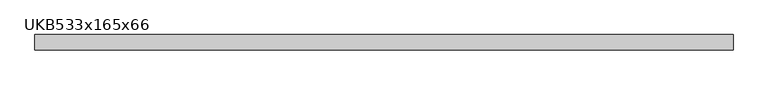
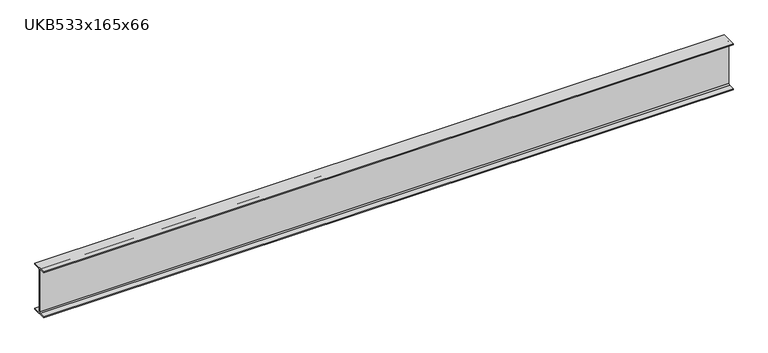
"""IFC4 building model written with IfcOpenShell, lengths in millimetres: beam geometry, UKB-UK Beams : UKB533x165x66."""

import ifcopenshell
import ifcopenshell.guid

model = None  # the IFC model being written
_history = None  # IfcOwnerHistory: only IFC2X3 demands one
_inside = {}  # id of a spatial element -> (the spatial element, [elements in it])
_under = {}  # id of a project, library or spatial element -> (it, [spatial elements below it])
_declared = {}  # id of a project -> (the project, [libraries it declares])
_typed = {}  # id of a type object -> (the type object, [elements of that type])
_made_of = {}  # id of a material, layer set ... -> (it, [elements and type objects made of it])


def new_model(schema):
    """Start an empty IFC model of exactly this schema.

    Asked for "IFC4X3", IfcOpenShell would pick the latest addendum, in which some entities
    have other attributes; the version numbers below select the first issue.
    IFC2X3 requires an IfcOwnerHistory on every rooted entity: one is made here for all.
    """
    global model, _history
    if schema == "IFC4X3":
        model = ifcopenshell.file(schema_version=(4, 3, 0, 0))
    else:
        model = ifcopenshell.file(schema=schema)
    _inside.clear()
    _under.clear()
    _declared.clear()
    _typed.clear()
    _made_of.clear()
    _history = None
    if model.schema == "IFC2X3":
        org = make("IfcOrganization", Name="unknown")
        user = make(
            "IfcPersonAndOrganization",
            ThePerson=make("IfcPerson", FamilyName="unknown"),
            TheOrganization=org,
        )
        app = make(
            "IfcApplication",
            ApplicationDeveloper=org,
            Version="unknown",
            ApplicationFullName="unknown",
            ApplicationIdentifier="unknown",
        )
        _history = make(
            "IfcOwnerHistory",
            OwningUser=user,
            OwningApplication=app,
            ChangeAction="ADDED",
            CreationDate=0,
        )
    return model


def make(cls, **values):
    """One entity of the class cls with the attributes given. An attribute that is None is left unset."""
    return model.create_entity(
        cls, **{name: value for name, value in values.items() if value is not None}
    )


def rooted(cls, **values):
    """An entity with a GlobalId (a new one), such as an element, a storey or a relation."""
    return make(cls, GlobalId=ifcopenshell.guid.new(), OwnerHistory=_history, **values)


def si_unit(unit_type, name, prefix=None):
    """IfcSIUnit, for example si_unit("LENGTHUNIT", "METRE", prefix="MILLI")."""
    return make("IfcSIUnit", UnitType=unit_type, Prefix=prefix, Name=name)


def assignment(units):
    """IfcUnitAssignment: the units of a project."""
    return None if units is None else make("IfcUnitAssignment", Units=units)


def point(xyz):
    """IfcCartesianPoint."""
    return None if xyz is None else make("IfcCartesianPoint", Coordinates=xyz)


def direction(xyz):
    """IfcDirection."""
    return None if xyz is None else make("IfcDirection", DirectionRatios=xyz)


def frame(location, z_axis=None, x_axis=None):
    """IfcAxis2Placement3D, a coordinate frame: its origin and axes. An axis left out is left unset."""
    return make(
        "IfcAxis2Placement3D",
        Location=point(location),
        Axis=direction(z_axis),
        RefDirection=direction(x_axis),
    )


def frame_2d(location, x_axis=None):
    """IfcAxis2Placement2D, a coordinate frame in the plane: its origin and x axis."""
    return make(
        "IfcAxis2Placement2D", Location=point(location), RefDirection=direction(x_axis)
    )


def origin():
    """The frame at (0, 0, 0) with its axes left unset."""
    return frame((0.0, 0.0, 0.0))


def place(relative_to, where):
    """IfcLocalPlacement: puts the frame where relative to a parent placement (None: the world)."""
    return make(
        "IfcLocalPlacement", PlacementRelTo=relative_to, RelativePlacement=where
    )


def context(
    kind, dimensions, precision=None, world=None, true_north=None, identifier=None
):
    """IfcGeometricRepresentationContext, for example the 3D "Model" context."""
    return make(
        "IfcGeometricRepresentationContext",
        ContextIdentifier=identifier,
        ContextType=kind,
        CoordinateSpaceDimension=dimensions,
        Precision=precision,
        WorldCoordinateSystem=world,
        TrueNorth=true_north,
    )


def project(units=None, contexts=None):
    """IfcProject with its units and contexts."""
    return rooted(
        "IfcProject",
        Name="project",
        RepresentationContexts=contexts,
        UnitsInContext=assignment(units),
    )


def spatial(cls, under=None, at=None, **own):
    """A site, building, storey or space (cls), placed at a placement, below another one or the project."""
    s = rooted(cls, ObjectPlacement=at, **own)
    if under is not None:
        _under.setdefault(under.id(), (under, []))[1].append(s)
    return s


def polyline(points):
    """IfcPolyline through the points."""
    return make("IfcPolyline", Points=[point(p) for p in points])


def circle_curve(where, radius):
    """IfcCircle in the frame where."""
    return make("IfcCircle", Position=where, Radius=radius)


def trimmed(basis, trim1, trim2, sense, master):
    """IfcTrimmedCurve: the piece of a basis curve between two trims."""
    return make(
        "IfcTrimmedCurve",
        BasisCurve=basis,
        Trim1=trim1,
        Trim2=trim2,
        SenseAgreement=sense,
        MasterRepresentation=master,
    )


def segment(curve, same_sense, transition):
    """IfcCompositeCurveSegment."""
    return make(
        "IfcCompositeCurveSegment",
        Transition=transition,
        SameSense=same_sense,
        ParentCurve=curve,
    )


def composite_curve(segments, self_intersect=None):
    """IfcCompositeCurve: segments joined end to end."""
    return make("IfcCompositeCurve", Segments=segments, SelfIntersect=self_intersect)


def outline(outer, holes=None, kind="AREA"):
    """IfcArbitraryClosedProfileDef: a profile drawn as a closed curve; with holes, ...WithVoids."""
    if holes is None:
        return make("IfcArbitraryClosedProfileDef", ProfileType=kind, OuterCurve=outer)
    return make(
        "IfcArbitraryProfileDefWithVoids",
        ProfileType=kind,
        OuterCurve=outer,
        InnerCurves=holes,
    )


def extrude(swept, where, along, depth):
    """IfcExtrudedAreaSolid: the profile swept, set in the frame where, extruded along a direction by depth."""
    return make(
        "IfcExtrudedAreaSolid",
        SweptArea=swept,
        Position=where,
        ExtrudedDirection=direction(along),
        Depth=depth,
    )


def shape(context_of_items, identifier, shape_type, items):
    """IfcShapeRepresentation: the items that make up one representation, for example the "Body"."""
    return make(
        "IfcShapeRepresentation",
        ContextOfItems=context_of_items,
        RepresentationIdentifier=identifier,
        RepresentationType=shape_type,
        Items=items,
    )


def source(mapping_origin, context_of_items, identifier, shape_type, items):
    """IfcRepresentationMap: a shape defined once, which mapped items show again and again."""
    return make(
        "IfcRepresentationMap",
        MappingOrigin=mapping_origin,
        MappedRepresentation=shape(context_of_items, identifier, shape_type, items),
    )


def transform(
    local_origin,
    x_axis=None,
    y_axis=None,
    z_axis=None,
    scale=None,
    scale2=None,
    scale3=None,
    uniform=True,
):
    """IfcCartesianTransformationOperator3D, or its non-uniform kind. x_axis, y_axis, z_axis: its Axis1, 2, 3."""
    if uniform:
        return make(
            "IfcCartesianTransformationOperator3D",
            Axis1=direction(x_axis),
            Axis2=direction(y_axis),
            LocalOrigin=point(local_origin),
            Scale=scale,
            Axis3=direction(z_axis),
        )
    return make(
        "IfcCartesianTransformationOperator3DnonUniform",
        Axis1=direction(x_axis),
        Axis2=direction(y_axis),
        LocalOrigin=point(local_origin),
        Scale=scale,
        Axis3=direction(z_axis),
        Scale2=scale2,
        Scale3=scale3,
    )


def mapped(mapping_source, mapping_target):
    """IfcMappedItem: shows the shape of a source again, moved by a transform."""
    return make(
        "IfcMappedItem", MappingSource=mapping_source, MappingTarget=mapping_target
    )


def made_of(thing, what):
    """Note that an element or type object is made of a material, layer set ...; save() writes the relation."""
    if what is not None:
        _made_of.setdefault(what.id(), (what, []))[1].append(thing)
    return thing


def element(
    cls,
    number,
    at=None,
    inside=None,
    cuts=None,
    type_object=None,
    material=None,
    context=None,
    identifier="Body",
    shape_type=None,
    held_by="IfcProductDefinitionShape",
    body=None,
    shapes=None,
    **own,
):
    """One element of the class cls, such as IfcWall. Its Tag is "e" and its number.

    at: its placement. inside: the storey or other place that contains it. cuts: it is an
    opening in that element (IfcRelVoidsElement). A single representation is given by context,
    identifier, shape_type and body (its items); several are given by shapes. held_by: the class
    of the entity that holds the representations. save() writes the other relations.
    """
    e = rooted(cls, Tag="e%d" % number, ObjectPlacement=at, **own)
    if body is not None:
        shapes = [shape(context, identifier, shape_type, body)]
    if shapes is not None:
        e.Representation = make(held_by, Representations=shapes)
    if inside is not None:
        _inside.setdefault(inside.id(), (inside, []))[1].append(e)
    if cuts is not None:
        rooted(
            "IfcRelVoidsElement", RelatingBuildingElement=cuts, RelatedOpeningElement=e
        )
    if type_object is not None:
        _typed.setdefault(type_object.id(), (type_object, []))[1].append(e)
    return made_of(e, material)


def aggregate(whole, parts):
    """IfcRelAggregates: a whole, such as a stair, and the parts it consists of."""
    return rooted("IfcRelAggregates", RelatingObject=whole, RelatedObjects=parts)


def save(model, path):
    """Write the relations noted so far, then the file.

    IfcRelAggregates (storeys below a building ...), IfcRelContainedInSpatialStructure (elements
    in a storey), IfcRelDefinesByType, IfcRelAssociatesMaterial and IfcRelDeclares: one each for
    every whole, place, type object, material and project.
    """
    for whole, parts in _under.values():
        aggregate(whole, parts)
    for where, things in _inside.values():
        rooted(
            "IfcRelContainedInSpatialStructure",
            RelatedElements=things,
            RelatingStructure=where,
        )
    for kind, things in _typed.values():
        rooted("IfcRelDefinesByType", RelatedObjects=things, RelatingType=kind)
    for what, things in _made_of.values():
        rooted("IfcRelAssociatesMaterial", RelatedObjects=things, RelatingMaterial=what)
    for by, libraries in _declared.values():
        rooted("IfcRelDeclares", RelatingContext=by, RelatedDefinitions=libraries)
    model.write(path)


def ukb533x165x66_10c7cd28(model_context):
    return source(origin(), model_context, "Body", "SweptSolid", [
        extrude(outline(composite_curve([segment(polyline([(82.55, -250.95), (82.55, -262.35), (-82.55, -262.35), (-82.55, -250.95), (-17.15, -250.95)]), True, "CONTINUOUS"), segment(trimmed(circle_curve(frame_2d((-17.15, -238.25)), 12.7), [point((-17.15, -250.95))], [point((-4.45, -238.25))], True, "CARTESIAN"), True, "CONTINUOUS"), segment(polyline([(-4.45, -238.25), (-4.45, 238.25)]), True, "CONTINUOUS"), segment(trimmed(circle_curve(frame_2d((-17.15, 238.25)), 12.7), [point((-4.45, 238.25))], [point((-17.15, 250.95))], True, "CARTESIAN"), True, "CONTINUOUS"), segment(polyline([(-17.15, 250.95), (-82.55, 250.95), (-82.55, 262.35), (82.55, 262.35), (82.55, 250.95), (17.15, 250.95)]), True, "CONTINUOUS"), segment(trimmed(circle_curve(frame_2d((17.15, 238.25)), 12.7), [point((17.15, 250.95))], [point((4.45, 238.25))], True, "CARTESIAN"), True, "CONTINUOUS"), segment(polyline([(4.45, 238.25), (4.45, -238.25)]), True, "CONTINUOUS"), segment(trimmed(circle_curve(frame_2d((17.15, -238.25)), 12.7), [point((4.45, -238.25))], [point((17.15, -250.95))], True, "CARTESIAN"), True, "CONTINUOUS"), segment(polyline([(17.15, -250.95), (82.55, -250.95)]), True, "CONTINUOUS")], self_intersect=False)), frame((-3721.0, 0.0, 0.0), z_axis=(1.0, 0.0, 0.0), x_axis=(0.0, 1.0, 0.0)), (0.0, 0.0, 1.0), 7442.0),
    ])


if __name__ == "__main__":
    model = new_model("IFC4")
    model_context = context("Model", 3, world=origin())
    ifc_project = project(units=[si_unit("LENGTHUNIT", "METRE", prefix="MILLI")], contexts=[model_context])
    site = spatial("IfcSite", under=ifc_project)
    building = spatial("IfcBuilding", under=site)
    placement = place(None, origin())
    ukb533x165x66_shape = ukb533x165x66_10c7cd28(model_context)
    element("IfcBeam", 1, ObjectType="UKB-UK Beams : UKB533x165x66", at=placement, inside=building, context=model_context, shape_type="MappedRepresentation", body=[
        mapped(ukb533x165x66_shape, transform((0.0, 0.0, 0.0), x_axis=(1.0, 0.0, 0.0), y_axis=(0.0, 1.0, 0.0), z_axis=(0.0, 0.0, 1.0))),
    ])
    save(model, "model.ifc")
